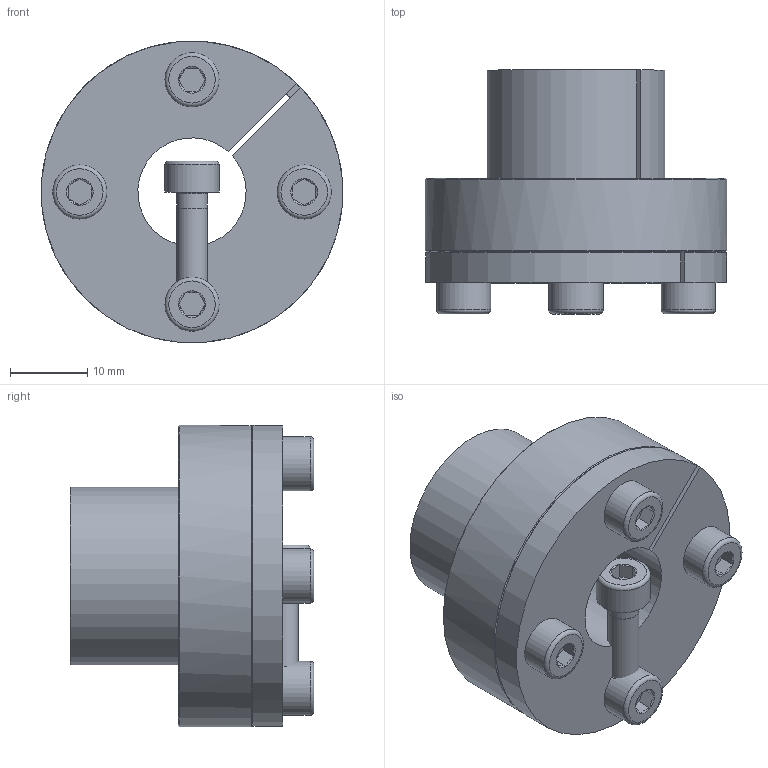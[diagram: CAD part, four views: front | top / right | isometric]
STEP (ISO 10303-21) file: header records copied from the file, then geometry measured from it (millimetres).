
FILE_DESCRIPTION( ( 'Unknown' ), '1' );
FILE_NAME( 'C:/Dokumente und Einstellungen/Sven/Desktop/homepage/cad - homepage/KBS80/KBS 80 - 14 x 23.stp', 'Unknown', ( 'Unknown' ), ( 'Unknown' ), 'XStep 1.0', 'Unknown', ' ' );
FILE_SCHEMA( ( 'automotive_design' ) );
Length unit declared in the file: millimetre
Products named in the file (6): Assem1; KBS 80 - 14 x 23; ISO EN DIN 4762 M4x12; ISO EN DIN 4762 M4x12-oa0; ISO EN DIN 4762 M4x12-oa1; ISO EN DIN 4762 M4x12-oa2
Bounding box: 39 x 31.5 x 39 mm (x, y, z)
Volume: 35980.8 mm3; surface area: 16552.4 mm2
Topology: 10 solids, 10 shells, 248 faces, 478 edges, 280 vertices
Faces by surface type: plane 112, cone 70, cylinder 50, torus 16
Full cylindrical faces by diameter (mm): 3.5 x8, 4 x24, 7 x8, 39 x2
Entity records: 3259 total; most frequent: CARTESIAN_POINT 629, DIRECTION 516, ORIENTED_EDGE 386, AXIS2_PLACEMENT_3D 225, EDGE_CURVE 193, EDGE_LOOP 185, FACE_OUTER_BOUND 153, VERTEX_POINT 130
